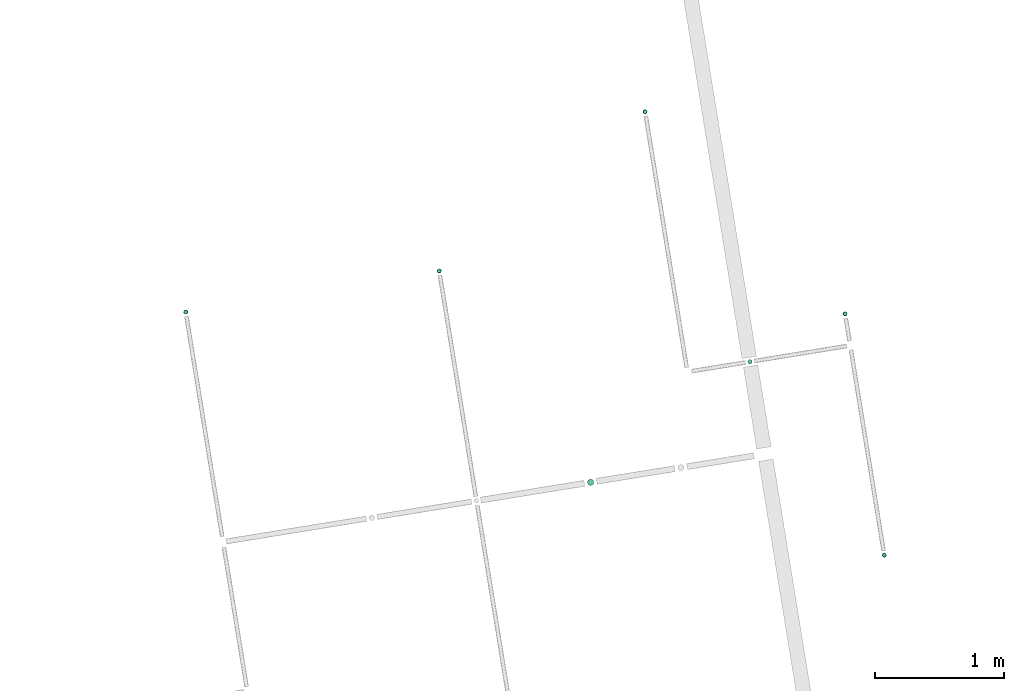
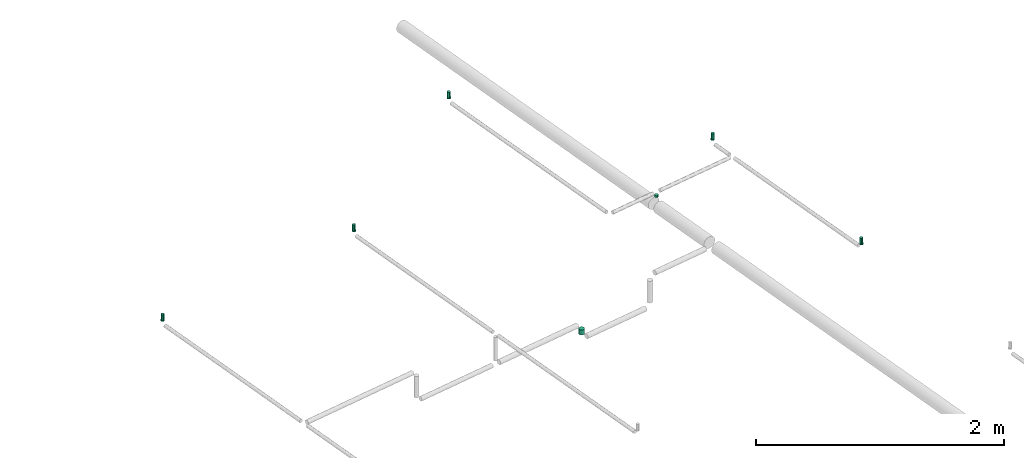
# One storey, part 10 of 11: 7 flow segments, 5 flow terminals.
"""IFC2X3 building model written with IfcOpenShell, lengths in millimetres."""

from ifc_helpers import new_model, entity, si_unit, converted_unit, derived_unit, direction, frame, frame_2d, origin, origin_with_axes, origin_2d_with_axis, place, context, subcontext, project, spatial, circle, extrude, source, transform, mapped, material, type_object, element, save


model = new_model("IFC2X3")

# Units and contexts
model_context = context("Model", 3, precision=0.01, world=origin(), true_north=direction((6.12323399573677e-17, 1.0)))
plan_context = context("Plan", 3, precision=1e-05, world=origin_with_axes())
body_context = subcontext(model_context, "Body", "Model", "MODEL_VIEW")
ifc_project = project(units=[converted_unit("PLANEANGLEUNIT", "DEGREE", entity("IfcPositiveLengthMeasure", 0.0174532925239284), si_unit("PLANEANGLEUNIT", "RADIAN"), dimensions=[0, 0, 0, 0, 0, 0, 0]), si_unit("AREAUNIT", "SQUARE_METRE"), si_unit("LENGTHUNIT", "METRE", prefix="MILLI"), si_unit("MASSUNIT", "GRAM", prefix="KILO"), si_unit("POWERUNIT", "WATT"), si_unit("PRESSUREUNIT", "PASCAL", prefix="KILO"), si_unit("FORCEUNIT", "NEWTON", prefix="KILO"), si_unit("ELECTRICVOLTAGEUNIT", "VOLT"), si_unit("ELECTRICCURRENTUNIT", "AMPERE"), si_unit("THERMODYNAMICTEMPERATUREUNIT", "DEGREE_CELSIUS"), si_unit("TIMEUNIT", "SECOND"), si_unit("VOLUMEUNIT", "CUBIC_METRE"), derived_unit("LINEARVELOCITYUNIT", [(si_unit("LENGTHUNIT", "METRE"), 1), (si_unit("TIMEUNIT", "SECOND"), -1)]), derived_unit("VOLUMETRICFLOWRATEUNIT", [(si_unit("VOLUMEUNIT", "CUBIC_METRE"), 1), (si_unit("TIMEUNIT", "SECOND"), -1)]), derived_unit("THERMALTRANSMITTANCEUNIT", [(si_unit("POWERUNIT", "WATT"), 1), (si_unit("THERMODYNAMICTEMPERATUREUNIT", "KELVIN"), -1), (si_unit("AREAUNIT", "SQUARE_METRE"), -1)]), derived_unit("SOUNDPRESSUREUNIT", [(si_unit("PRESSUREUNIT", "PASCAL"), 1)])], contexts=[model_context, plan_context])

# Site, building, storey
site_placement = place(None, frame((-0.00071070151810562, 0.00438415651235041, 0.0), z_axis=(0.0, 0.0, 1.0), x_axis=(-0.160236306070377, 0.987078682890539, 0.0)))
site = spatial("IfcSite", under=ifc_project, at=site_placement, Name="Default", CompositionType="ELEMENT")
building_placement = place(site_placement, origin_with_axes())
building = spatial("IfcBuilding", under=site, at=building_placement, CompositionType="ELEMENT")
storey_placement = place(building_placement, frame((0.0, 0.0, 50999.9999999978), z_axis=(0.0, 0.0, 1.0), x_axis=(1.0, 0.0, 0.0)))
storey = spatial("IfcBuildingStorey", under=building, at=storey_placement, Name="Nivå D", CompositionType="ELEMENT", Elevation=50999.9999999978)

# Flow terminals
ifc_material = material(Name="<Unnamed>")
fire_suppression_terminal_type = type_object("IfcFireSuppressionTerminalType", Name="UZ002T:Dyse/Spreder - UZ002T", PredefinedType="NOTDEFINED", material=ifc_material)
shared_shape = source(origin(), body_context, "Body", "SweptSolid", [
    extrude(circle(Radius=14.0, at=frame_2d((0.0, -2.26176240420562e-14), x_axis=(1.0, 0.0))), origin(), (0.0, 0.0, 1.0), 58.9999999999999),
])
for number, where, z_axis, x_axis in (
    (1, (775267.619644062, -603732.480498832, 3470.0), (0.0, 0.0, 1.0), (1.0, 0.0, 0.0)),
    (2, (777167.619644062, -603732.480498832, 3470.0), (0.0, 0.0, 1.0), (1.0, 0.0, 0.0)),
    (3, (778002.619644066, -600672.905078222, 3470.0), (0.0, 0.0, 1.0), (1.0, 0.0, 0.0)),
    (4, (778002.619644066, -598677.480498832, 3470.0), (0.0, 0.0, 1.0), (1.0, 0.0, 0.0)),
    (5, (778967.036167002, -602450.25198008, 3470.0), (0.0, 0.0, 1.0), (1.0, 0.0, 0.0)),
):
    element("IfcFlowTerminal", number, at=place(storey_placement, frame(where, z_axis=z_axis, x_axis=x_axis)), inside=storey, type_object=fire_suppression_terminal_type, material=ifc_material, Name="UZ002T:Dyse/Spreder - UZ002T", ObjectType="UZ002T:Dyse/Spreder - UZ002T", context=body_context, shape_type="MappedRepresentation", body=[
        mapped(shared_shape, transform((0.0, 0.0, 0.0), scale=1.0)),
    ])

# Flow segments
pipe_segment_type = type_object("IfcPipeSegmentType", Name="Pipe Types:Stålrør normaltykke", PredefinedType="NOTDEFINED")
flow_segment_1_placement = place(storey_placement, origin_with_axes())
element("IfcFlowSegment", 6, at=flow_segment_1_placement, inside=storey, type_object=pipe_segment_type, Name="Pipe Types:Stålrør normaltykke", ObjectType="Pipe Types:Stålrør normaltykke", context=body_context, shape_type="SweptSolid", body=[
    extrude(circle(Radius=16.8500004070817, at=origin_2d_with_axis()), frame((775267.619648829, -603732.480498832, 3463.79999627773), z_axis=(-5.15384594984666e-07, 0.0, 1.0), x_axis=(-1.0, 0.0, -5.15384594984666e-07)), (0.0, 0.0, 1.0), 9.24800372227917),
])
flow_segment_2_placement = place(storey_placement, origin_with_axes())
element("IfcFlowSegment", 7, at=flow_segment_2_placement, inside=storey, type_object=pipe_segment_type, Name="Pipe Types:Stålrør normaltykke", ObjectType="Pipe Types:Stålrør normaltykke", context=body_context, shape_type="SweptSolid", body=[
    extrude(circle(Radius=16.8500004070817, at=origin_2d_with_axis()), frame((777167.619648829, -603732.480498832, 3463.80000372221), z_axis=(-5.15385009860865e-07, 0.0, 1.0), x_axis=(-1.0, 0.0, -5.15385009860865e-07)), (0.0, 0.0, 1.0), 9.24799627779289),
])
flow_segment_3_placement = place(storey_placement, origin_with_axes())
element("IfcFlowSegment", 8, at=flow_segment_3_placement, inside=storey, type_object=pipe_segment_type, Name="Pipe Types:Stålrør normaltykke", ObjectType="Pipe Types:Stålrør normaltykke", context=body_context, shape_type="SweptSolid", body=[
    extrude(circle(Radius=16.8500004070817, at=origin_2d_with_axis()), frame((778002.619648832, -600672.905078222, 3463.80000372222), z_axis=(-5.15370022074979e-07, 0.0, 1.0), x_axis=(-1.0, 0.0, -5.15370022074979e-07)), (0.0, 0.0, 1.0), 9.24799627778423),
])
flow_segment_4_placement = place(storey_placement, origin_with_axes())
element("IfcFlowSegment", 9, at=flow_segment_4_placement, inside=storey, type_object=pipe_segment_type, Name="Pipe Types:Stålrør normaltykke", ObjectType="Pipe Types:Stålrør normaltykke", context=body_context, shape_type="SweptSolid", body=[
    extrude(circle(Radius=16.8500004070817, at=origin_2d_with_axis()), frame((778002.619651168, -598677.480498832, 3463.80000558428), z_axis=(-7.67944352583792e-07, 0.0, 1.0), x_axis=(-1.0, 0.0, -7.67944352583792e-07)), (0.0, 0.0, 1.0), 9.24799441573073),
])
flow_segment_5_placement = place(storey_placement, origin_with_axes())
element("IfcFlowSegment", 10, at=flow_segment_5_placement, inside=storey, type_object=pipe_segment_type, Name="Pipe Types:Stålrør normaltykke", ObjectType="Pipe Types:Stålrør normaltykke", context=body_context, shape_type="SweptSolid", body=[
    extrude(circle(Radius=16.8500004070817, at=origin_2d_with_axis()), frame((778967.036171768, -602450.25198008, 3463.8000174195), z_axis=(-5.15370785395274e-07, 0.0, 1.0), x_axis=(-1.0, 0.0, -5.15370785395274e-07)), (0.0, 0.0, 1.0), 9.24798258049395),
])
flow_segment_6_placement = place(storey_placement, origin_with_axes())
element("IfcFlowSegment", 11, at=flow_segment_6_placement, inside=storey, type_object=pipe_segment_type, Name="Pipe Types:Stålrør normaltykke", ObjectType="Pipe Types:Stålrør normaltykke", context=body_context, shape_type="SweptSolid", body=[
    extrude(circle(Radius=24.1499996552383, at=origin_2d_with_axis()), frame((776192.619644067, -601570.25198008, 3036.26263744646), z_axis=(0.0, 0.0, 1.0), x_axis=(-1.0, 0.0, 0.0)), (0.0, 0.0, 1.0), 50.3094135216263),
])
flow_segment_7_placement = place(storey_placement, origin_with_axes())
element("IfcFlowSegment", 12, at=flow_segment_7_placement, inside=storey, type_object=pipe_segment_type, Name="Pipe Types:Stålrør normaltykke", ObjectType="Pipe Types:Stålrør normaltykke", context=body_context, shape_type="SweptSolid", body=[
    extrude(circle(Radius=16.8500004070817, at=origin_2d_with_axis()), frame((776918.839184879, -602942.60820948, 3385.8), z_axis=(0.0, 0.0, 1.0), x_axis=(-1.0, 0.0, 0.0)), (0.0, 0.0, 1.0), 18.85),
])

save(model, "model.ifc")
